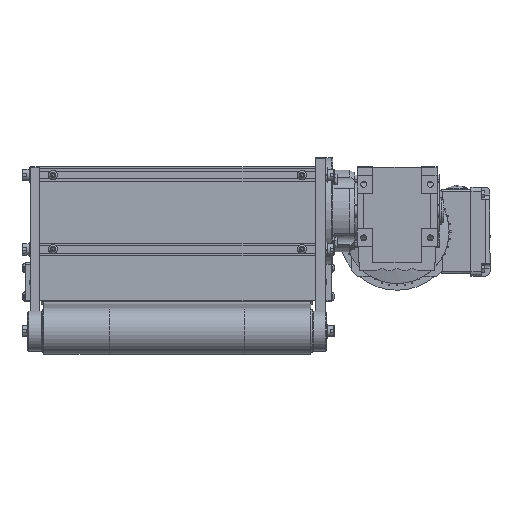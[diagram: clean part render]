
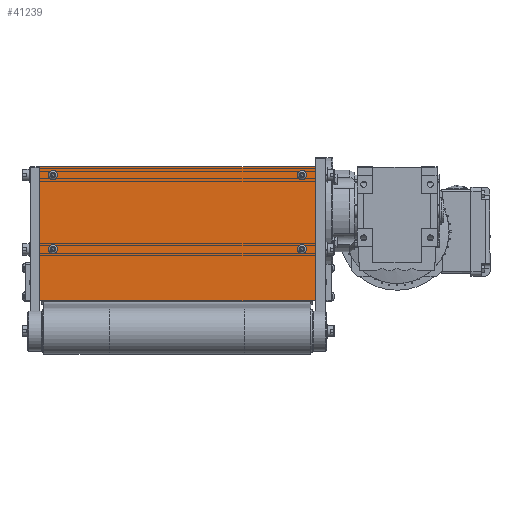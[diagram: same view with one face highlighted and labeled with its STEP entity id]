
A CAD part, left-side view. The second image highlights one B-rep face of the part: STEP entity #41239.
In plain terms, the highlighted planar face has unit normal (-1, 0, 0) as drawn and (0, 0, -1) by its records, which use the part's own axes.
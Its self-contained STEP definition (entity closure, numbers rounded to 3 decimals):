
#554 = CARTESIAN_POINT ( 'NONE',  ( 295., 86.5, -18. ) ) ;
#1286 = ORIENTED_EDGE ( 'NONE', *, *, #1651, .F. ) ;
#1366 = FACE_BOUND ( 'NONE', #34473, .T. ) ;
#1651 = EDGE_CURVE ( 'NONE', #41271, #21206, #48280, .T. ) ;
#1892 = CARTESIAN_POINT ( 'NONE',  ( 0., 141.5, -18. ) ) ;
#2161 = DIRECTION ( 'NONE',  ( 0., 0., -1. ) ) ;
#3151 = EDGE_LOOP ( 'NONE', ( #40312 ) ) ;
#3970 = AXIS2_PLACEMENT_3D ( 'NONE', #22781, #37846, #37613 ) ;
#4478 = EDGE_LOOP ( 'NONE', ( #28350 ) ) ;
#4817 = FACE_BOUND ( 'NONE', #3151, .T. ) ;
#4924 = CARTESIAN_POINT ( 'NONE',  ( 310., 141.5, -18. ) ) ;
#5827 = EDGE_CURVE ( 'NONE', #41326, #41271, #12772, .T. ) ;
#5864 = CARTESIAN_POINT ( 'NONE',  ( 15., 83.5, -18. ) ) ;
#5903 = LINE ( 'NONE', #4924, #20100 ) ;
#6394 = AXIS2_PLACEMENT_3D ( 'NONE', #19467, #34535, #19938 ) ;
#6650 = AXIS2_PLACEMENT_3D ( 'NONE', #5864, #2161, #29086 ) ;
#7469 = VECTOR ( 'NONE', #14014, 1000. ) ;
#8810 = CARTESIAN_POINT ( 'NONE',  ( 461.03, 141.5, -18. ) ) ;
#9655 = AXIS2_PLACEMENT_3D ( 'NONE', #20426, #24657, #28123 ) ;
#10107 = VECTOR ( 'NONE', #48031, 1000. ) ;
#10324 = EDGE_CURVE ( 'NONE', #35505, #21206, #28394, .T. ) ;
#10894 = ORIENTED_EDGE ( 'NONE', *, *, #26979, .T. ) ;
#11392 = EDGE_LOOP ( 'NONE', ( #47413, #10894, #40666, #1286 ) ) ;
#12772 = LINE ( 'NONE', #8810, #37775 ) ;
#13382 = EDGE_CURVE ( 'NONE', #35781, #35781, #34094, .T. ) ;
#14014 = DIRECTION ( 'NONE',  ( -1., 0., 0. ) ) ;
#16590 = CIRCLE ( 'NONE', #3970, 3. ) ;
#18536 = ORIENTED_EDGE ( 'NONE', *, *, #13382, .F. ) ;
#19467 = CARTESIAN_POINT ( 'NONE',  ( 15., 0., -18. ) ) ;
#19896 = VERTEX_POINT ( 'NONE', #38435 ) ;
#19938 = DIRECTION ( 'NONE',  ( 0., 1., 0. ) ) ;
#20100 = VECTOR ( 'NONE', #20726, 1000. ) ;
#20102 = CARTESIAN_POINT ( 'NONE',  ( 310., -9.5, -18. ) ) ;
#20370 = CARTESIAN_POINT ( 'NONE',  ( 0., 141.5, -18. ) ) ;
#20426 = CARTESIAN_POINT ( 'NONE',  ( 295., 0., -18. ) ) ;
#20726 = DIRECTION ( 'NONE',  ( 0., -1., 0. ) ) ;
#21206 = VERTEX_POINT ( 'NONE', #47937 ) ;
#21636 = EDGE_CURVE ( 'NONE', #19896, #19896, #29541, .T. ) ;
#21694 = CARTESIAN_POINT ( 'NONE',  ( 461.03, -9.5, -18. ) ) ;
#22781 = CARTESIAN_POINT ( 'NONE',  ( 295., 83.5, -18. ) ) ;
#22900 = AXIS2_PLACEMENT_3D ( 'NONE', #47095, #27830, #24116 ) ;
#24116 = DIRECTION ( 'NONE',  ( 0., 1., 0. ) ) ;
#24160 = DIRECTION ( 'NONE',  ( -1., 0., 0. ) ) ;
#24603 = EDGE_CURVE ( 'NONE', #28574, #28574, #28541, .T. ) ;
#24657 = DIRECTION ( 'NONE',  ( 0., 0., -1. ) ) ;
#26979 = EDGE_CURVE ( 'NONE', #41326, #35505, #5903, .T. ) ;
#27577 = FACE_BOUND ( 'NONE', #41531, .T. ) ;
#27830 = DIRECTION ( 'NONE',  ( 0., 0., -1. ) ) ;
#28123 = DIRECTION ( 'NONE',  ( 0., 1., 0. ) ) ;
#28350 = ORIENTED_EDGE ( 'NONE', *, *, #21636, .F. ) ;
#28394 = LINE ( 'NONE', #21694, #7469 ) ;
#28541 = CIRCLE ( 'NONE', #6394, 3. ) ;
#28574 = VERTEX_POINT ( 'NONE', #47352 ) ;
#29086 = DIRECTION ( 'NONE',  ( 0., 1., 0. ) ) ;
#29541 = CIRCLE ( 'NONE', #6650, 3. ) ;
#32559 = EDGE_CURVE ( 'NONE', #34388, #34388, #16590, .T. ) ;
#34094 = CIRCLE ( 'NONE', #9655, 3. ) ;
#34303 = ORIENTED_EDGE ( 'NONE', *, *, #24603, .F. ) ;
#34388 = VERTEX_POINT ( 'NONE', #554 ) ;
#34473 = EDGE_LOOP ( 'NONE', ( #18536 ) ) ;
#34535 = DIRECTION ( 'NONE',  ( 0., 0., -1. ) ) ;
#35505 = VERTEX_POINT ( 'NONE', #20102 ) ;
#35781 = VERTEX_POINT ( 'NONE', #39979 ) ;
#37613 = DIRECTION ( 'NONE',  ( 0., 1., 0. ) ) ;
#37775 = VECTOR ( 'NONE', #24160, 1000. ) ;
#37846 = DIRECTION ( 'NONE',  ( 0., 0., -1. ) ) ;
#37945 = PLANE ( 'NONE',  #22900 ) ;
#38435 = CARTESIAN_POINT ( 'NONE',  ( 15., 86.5, -18. ) ) ;
#39408 = CARTESIAN_POINT ( 'NONE',  ( 310., 141.5, -18. ) ) ;
#39979 = CARTESIAN_POINT ( 'NONE',  ( 295., 3., -18. ) ) ;
#40312 = ORIENTED_EDGE ( 'NONE', *, *, #32559, .F. ) ;
#40666 = ORIENTED_EDGE ( 'NONE', *, *, #10324, .T. ) ;
#41239 = ADVANCED_FACE ( 'NONE', ( #46358, #4817, #1366, #27577, #41645 ), #37945, .T. ) ;
#41271 = VERTEX_POINT ( 'NONE', #20370 ) ;
#41326 = VERTEX_POINT ( 'NONE', #39408 ) ;
#41531 = EDGE_LOOP ( 'NONE', ( #34303 ) ) ;
#41645 = FACE_OUTER_BOUND ( 'NONE', #11392, .T. ) ;
#46358 = FACE_BOUND ( 'NONE', #4478, .T. ) ;
#47095 = CARTESIAN_POINT ( 'NONE',  ( 461.03, 141.5, -18. ) ) ;
#47352 = CARTESIAN_POINT ( 'NONE',  ( 15., 3., -18. ) ) ;
#47413 = ORIENTED_EDGE ( 'NONE', *, *, #5827, .F. ) ;
#47937 = CARTESIAN_POINT ( 'NONE',  ( 0., -9.5, -18. ) ) ;
#48031 = DIRECTION ( 'NONE',  ( 0., -1., 0. ) ) ;
#48280 = LINE ( 'NONE', #1892, #10107 ) ;
